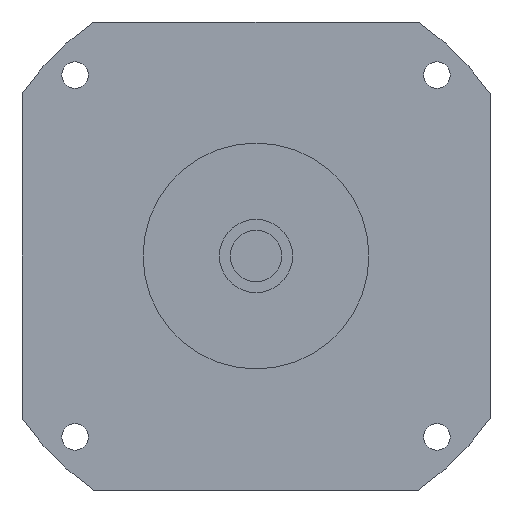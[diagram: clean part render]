
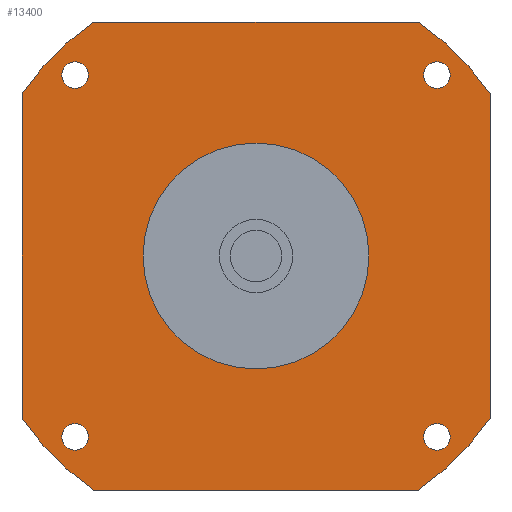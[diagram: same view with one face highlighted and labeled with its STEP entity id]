
A CAD part, left-side view. The second image highlights one B-rep face of the part: STEP entity #13400.
In plain terms, the highlighted planar face has unit normal (-1, 0, 0) as drawn and (0, 0, -1) by its records, which use the part's own axes.
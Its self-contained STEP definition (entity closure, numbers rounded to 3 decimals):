
#11730=CARTESIAN_POINT('',(-41.199,44.449,-47.));
#11740=VERTEX_POINT('',#11730);
#11770=CARTESIAN_POINT('',(-44.449,44.449,-47.));
#11780=DIRECTION('',(0.,0.,-1.));
#11790=DIRECTION('',(-1.,0.,0.));
#11800=AXIS2_PLACEMENT_3D('',#11770,#11780,#11790);
#11810=CIRCLE('',#11800,3.25);
#11820=CARTESIAN_POINT('',(-47.699,44.449,-47.));
#11830=VERTEX_POINT('',#11820);
#11840=EDGE_CURVE('',#11830,#11740,#11810,.T.);
#11960=CARTESIAN_POINT('',(57.5,57.5,-47.));
#11970=DIRECTION('',(0.,0.,-1.));
#11980=DIRECTION('',(1.,0.,0.));
#11990=AXIS2_PLACEMENT_3D('',#11960,#11970,#11980);
#12000=PLANE('',#11990);
#12010=CARTESIAN_POINT('',(-44.449,-44.449,-47.));
#12020=DIRECTION('',(0.,0.,-1.));
#12030=DIRECTION('',(0.,-1.,0.));
#12040=AXIS2_PLACEMENT_3D('',#12010,#12020,#12030);
#12050=CIRCLE('',#12040,3.25);
#12060=CARTESIAN_POINT('',(-44.449,-47.699,-47.));
#12070=VERTEX_POINT('',#12060);
#12080=CARTESIAN_POINT('',(-44.449,-41.199,-47.));
#12090=VERTEX_POINT('',#12080);
#12100=EDGE_CURVE('',#12070,#12090,#12050,.T.);
#12110=ORIENTED_EDGE('',*,*,#12100,.F.);
#12120=EDGE_CURVE('',#12090,#12070,#12050,.T.);
#12130=ORIENTED_EDGE('',*,*,#12120,.F.);
#12140=EDGE_LOOP('',(#12130,#12110));
#12150=FACE_BOUND('',#12140,.T.);
#12160=ORIENTED_EDGE('',*,*,#11840,.F.);
#12170=EDGE_CURVE('',#11740,#11830,#11810,.T.);
#12180=ORIENTED_EDGE('',*,*,#12170,.F.);
#12190=EDGE_LOOP('',(#12180,#12160));
#12200=FACE_BOUND('',#12190,.T.);
#12210=CARTESIAN_POINT('',(44.449,44.449,-47.));
#12220=DIRECTION('',(0.,0.,-1.));
#12230=DIRECTION('',(0.,1.,0.));
#12240=AXIS2_PLACEMENT_3D('',#12210,#12220,#12230);
#12250=CIRCLE('',#12240,3.25);
#12260=CARTESIAN_POINT('',(44.449,47.699,-47.));
#12270=VERTEX_POINT('',#12260);
#12280=CARTESIAN_POINT('',(44.449,41.199,-47.));
#12290=VERTEX_POINT('',#12280);
#12300=EDGE_CURVE('',#12270,#12290,#12250,.T.);
#12310=ORIENTED_EDGE('',*,*,#12300,.F.);
#12320=EDGE_CURVE('',#12290,#12270,#12250,.T.);
#12330=ORIENTED_EDGE('',*,*,#12320,.F.);
#12340=EDGE_LOOP('',(#12330,#12310));
#12350=FACE_BOUND('',#12340,.T.);
#12360=CARTESIAN_POINT('',(0.,0.,
-47.));
#12370=DIRECTION('',(0.,0.,1.));
#12380=DIRECTION('',(0.,1.,0.));
#12390=AXIS2_PLACEMENT_3D('',#12360,#12370,#12380);
#12400=CIRCLE('',#12390,27.76);
#12410=CARTESIAN_POINT('',(-27.76,0.,-47.));
#12420=VERTEX_POINT('',#12410);
#12430=CARTESIAN_POINT('',(27.76,0.,-47.));
#12440=VERTEX_POINT('',#12430);
#12450=EDGE_CURVE('',#12420,#12440,#12400,.T.);
#12460=ORIENTED_EDGE('',*,*,#12450,.T.);
#12470=CARTESIAN_POINT('',(0.,27.76,-47.));
#12480=VERTEX_POINT('',#12470);
#12490=EDGE_CURVE('',#12480,#12420,#12400,.T.);
#12500=ORIENTED_EDGE('',*,*,#12490,.T.);
#12510=EDGE_CURVE('',#12440,#12480,#12400,.T.);
#12520=ORIENTED_EDGE('',*,*,#12510,.T.);
#12530=EDGE_LOOP('',(#12520,#12500,#12460));
#12540=FACE_BOUND('',#12530,.T.);
#12550=CARTESIAN_POINT('',(-57.5,57.5,-47.));
#12560=DIRECTION('',(1.,0.,0.));
#12570=VECTOR('',#12560,1000.);
#12580=LINE('',#12550,#12570);
#12590=CARTESIAN_POINT('',(-39.922,57.5,-47.));
#12600=VERTEX_POINT('',#12590);
#12610=CARTESIAN_POINT('',(39.922,57.5,-47.));
#12620=VERTEX_POINT('',#12610);
#12630=EDGE_CURVE('',#12600,#12620,#12580,.T.);
#12640=ORIENTED_EDGE('',*,*,#12630,.T.);
#12650=CARTESIAN_POINT('',(0.,0.,
-47.));
#12660=DIRECTION('',(0.,0.,-1.));
#12670=DIRECTION('',(1.,0.,0.));
#12680=AXIS2_PLACEMENT_3D('',#12650,#12660,#12670);
#12690=CIRCLE('',#12680,70.);
#12700=CARTESIAN_POINT('',(-57.5,39.922,-47.));
#12710=VERTEX_POINT('',#12700);
#12720=EDGE_CURVE('',#12710,#12600,#12690,.T.);
#12730=ORIENTED_EDGE('',*,*,#12720,.T.);
#12740=CARTESIAN_POINT('',(-57.5,-57.5,-47.));
#12750=DIRECTION('',(0.,1.,0.));
#12760=VECTOR('',#12750,1000.);
#12770=LINE('',#12740,#12760);
#12780=CARTESIAN_POINT('',(-57.5,-39.922,-47.));
#12790=VERTEX_POINT('',#12780);
#12800=EDGE_CURVE('',#12790,#12710,#12770,.T.);
#12810=ORIENTED_EDGE('',*,*,#12800,.T.);
#12820=CARTESIAN_POINT('',(0.,0.,
-47.));
#12830=DIRECTION('',(0.,0.,-1.));
#12840=DIRECTION('',(1.,0.,0.));
#12850=AXIS2_PLACEMENT_3D('',#12820,#12830,#12840);
#12860=CIRCLE('',#12850,70.);
#12870=CARTESIAN_POINT('',(-39.922,-57.5,-47.));
#12880=VERTEX_POINT('',#12870);
#12890=EDGE_CURVE('',#12880,#12790,#12860,.T.);
#12900=ORIENTED_EDGE('',*,*,#12890,.T.);
#12910=CARTESIAN_POINT('',(57.5,-57.5,-47.));
#12920=DIRECTION('',(-1.,0.,0.));
#12930=VECTOR('',#12920,1000.);
#12940=LINE('',#12910,#12930);
#12950=CARTESIAN_POINT('',(39.922,-57.5,-47.));
#12960=VERTEX_POINT('',#12950);
#12970=EDGE_CURVE('',#12960,#12880,#12940,.T.);
#12980=ORIENTED_EDGE('',*,*,#12970,.T.);
#12990=CARTESIAN_POINT('',(0.,0.,
-47.));
#13000=DIRECTION('',(0.,0.,-1.));
#13010=DIRECTION('',(1.,0.,0.));
#13020=AXIS2_PLACEMENT_3D('',#12990,#13000,#13010);
#13030=CIRCLE('',#13020,70.);
#13040=CARTESIAN_POINT('',(57.5,-39.922,-47.));
#13050=VERTEX_POINT('',#13040);
#13060=EDGE_CURVE('',#13050,#12960,#13030,.T.);
#13070=ORIENTED_EDGE('',*,*,#13060,.T.);
#13080=CARTESIAN_POINT('',(57.5,57.5,-47.));
#13090=DIRECTION('',(0.,-1.,0.));
#13100=VECTOR('',#13090,1000.);
#13110=LINE('',#13080,#13100);
#13120=CARTESIAN_POINT('',(57.5,39.922,-47.));
#13130=VERTEX_POINT('',#13120);
#13140=EDGE_CURVE('',#13130,#13050,#13110,.T.);
#13150=ORIENTED_EDGE('',*,*,#13140,.T.);
#13160=CARTESIAN_POINT('',(0.,0.,
-47.));
#13170=DIRECTION('',(0.,0.,-1.));
#13180=DIRECTION('',(1.,0.,0.));
#13190=AXIS2_PLACEMENT_3D('',#13160,#13170,#13180);
#13200=CIRCLE('',#13190,70.);
#13210=EDGE_CURVE('',#12620,#13130,#13200,.T.);
#13220=ORIENTED_EDGE('',*,*,#13210,.T.);
#13230=EDGE_LOOP('',(#13220,#13150,#13070,#12980,#12900,#12810,#12730,
#12640));
#13240=FACE_OUTER_BOUND('',#13230,.T.);
#13250=CARTESIAN_POINT('',(44.449,-44.449,-47.));
#13260=DIRECTION('',(0.,0.,-1.));
#13270=DIRECTION('',(1.,0.,0.));
#13280=AXIS2_PLACEMENT_3D('',#13250,#13260,#13270);
#13290=CIRCLE('',#13280,3.25);
#13300=CARTESIAN_POINT('',(47.699,-44.449,-47.));
#13310=VERTEX_POINT('',#13300);
#13320=CARTESIAN_POINT('',(41.199,-44.449,-47.));
#13330=VERTEX_POINT('',#13320);
#13340=EDGE_CURVE('',#13310,#13330,#13290,.T.);
#13350=ORIENTED_EDGE('',*,*,#13340,.F.);
#13360=EDGE_CURVE('',#13330,#13310,#13290,.T.);
#13370=ORIENTED_EDGE('',*,*,#13360,.F.);
#13380=EDGE_LOOP('',(#13370,#13350));
#13390=FACE_BOUND('',#13380,.T.);
#13400=ADVANCED_FACE('',(#12150,#12200,#12350,#12540,#13240,#13390),
#12000,.T.);
